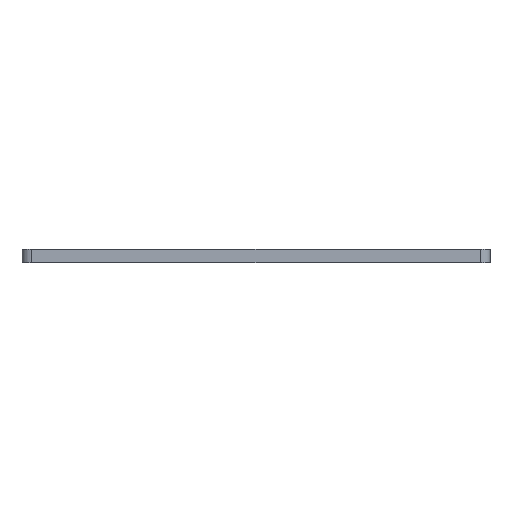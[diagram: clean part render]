
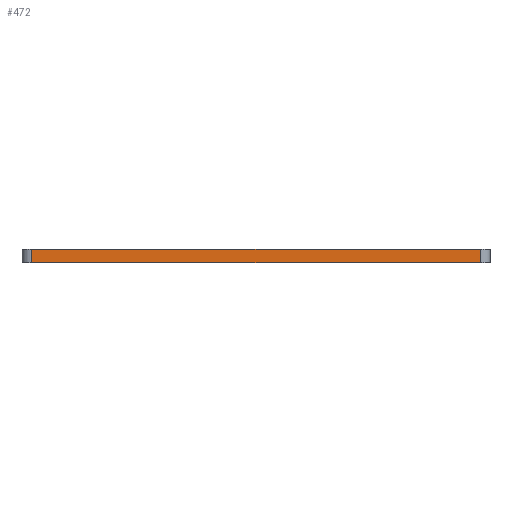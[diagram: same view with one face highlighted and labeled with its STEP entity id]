
A CAD part, front view. The second image highlights one B-rep face of the part: STEP entity #472.
In plain terms, the highlighted planar face has unit normal (0, -1, 0).
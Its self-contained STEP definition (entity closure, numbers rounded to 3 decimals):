
#2 = VECTOR ( 'NONE', #32, 1000. ) ;
#11 = VECTOR ( 'NONE', #276, 1000. ) ;
#32 = DIRECTION ( 'NONE',  ( 0., 0., 1. ) ) ;
#49 = ORIENTED_EDGE ( 'NONE', *, *, #160, .F. ) ;
#71 = CARTESIAN_POINT ( 'NONE',  ( -48.575, -23.195, 0. ) ) ;
#72 = ORIENTED_EDGE ( 'NONE', *, *, #851, .T. ) ;
#75 = ORIENTED_EDGE ( 'NONE', *, *, #789, .T. ) ;
#87 = LINE ( 'NONE', #421, #240 ) ;
#102 = CARTESIAN_POINT ( 'NONE',  ( 92.425, -23.195, 0. ) ) ;
#120 = CARTESIAN_POINT ( 'NONE',  ( -45.575, -23.195, 4. ) ) ;
#127 = FACE_OUTER_BOUND ( 'NONE', #368, .T. ) ;
#128 = VECTOR ( 'NONE', #788, 1000. ) ;
#130 = CARTESIAN_POINT ( 'NONE',  ( -48.575, -23.195, 4. ) ) ;
#131 = DIRECTION ( 'NONE',  ( 0., 0., -1. ) ) ;
#160 = EDGE_CURVE ( 'NONE', #587, #314, #842, .T. ) ;
#175 = CARTESIAN_POINT ( 'NONE',  ( -45.575, -23.195, 0. ) ) ;
#192 = LINE ( 'NONE', #71, #11 ) ;
#240 = VECTOR ( 'NONE', #131, 1000. ) ;
#276 = DIRECTION ( 'NONE',  ( 1., 0., 0. ) ) ;
#314 = VERTEX_POINT ( 'NONE', #625 ) ;
#346 = LINE ( 'NONE', #447, #2 ) ;
#368 = EDGE_LOOP ( 'NONE', ( #72, #553, #49, #75 ) ) ;
#402 = DIRECTION ( 'NONE',  ( 0., 0., 1. ) ) ;
#421 = CARTESIAN_POINT ( 'NONE',  ( -45.575, -23.195, 4. ) ) ;
#447 = CARTESIAN_POINT ( 'NONE',  ( 92.425, -23.195, 4. ) ) ;
#472 = ADVANCED_FACE ( 'NONE', ( #127 ), #486, .F. ) ;
#480 = VERTEX_POINT ( 'NONE', #175 ) ;
#486 = PLANE ( 'NONE',  #523 ) ;
#523 = AXIS2_PLACEMENT_3D ( 'NONE', #130, #809, #402 ) ;
#553 = ORIENTED_EDGE ( 'NONE', *, *, #608, .T. ) ;
#564 = VERTEX_POINT ( 'NONE', #102 ) ;
#587 = VERTEX_POINT ( 'NONE', #120 ) ;
#608 = EDGE_CURVE ( 'NONE', #564, #314, #346, .T. ) ;
#625 = CARTESIAN_POINT ( 'NONE',  ( 92.425, -23.195, 4. ) ) ;
#712 = CARTESIAN_POINT ( 'NONE',  ( -48.575, -23.195, 4. ) ) ;
#788 = DIRECTION ( 'NONE',  ( 1., 0., 0. ) ) ;
#789 = EDGE_CURVE ( 'NONE', #587, #480, #87, .T. ) ;
#809 = DIRECTION ( 'NONE',  ( 0., 1., 0. ) ) ;
#842 = LINE ( 'NONE', #712, #128 ) ;
#851 = EDGE_CURVE ( 'NONE', #480, #564, #192, .T. ) ;
